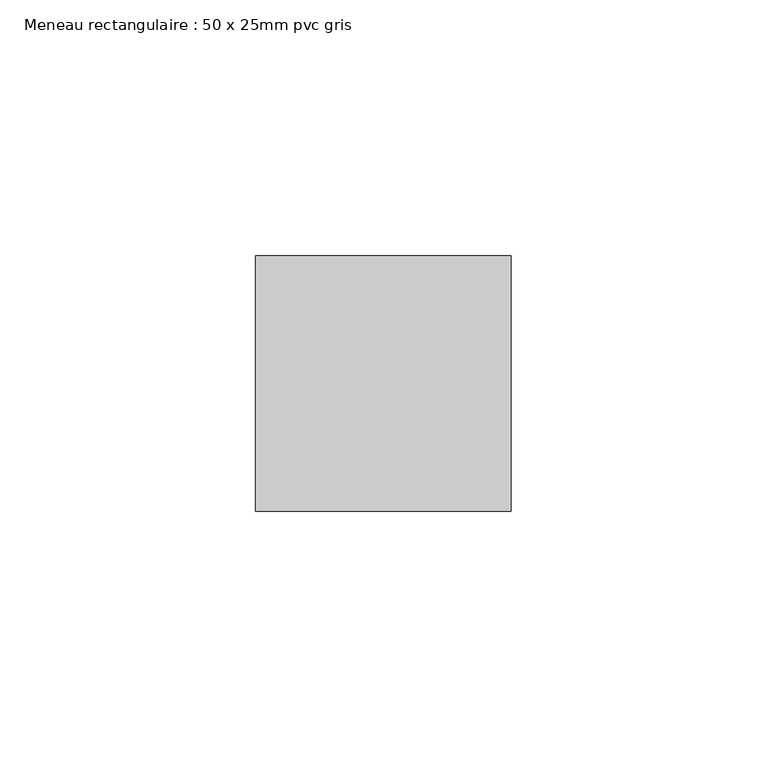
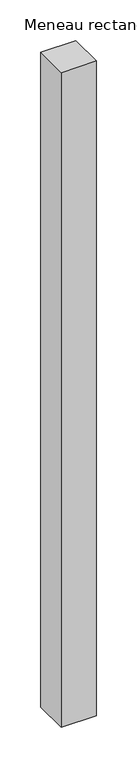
"""IFC4 building model written with IfcOpenShell, lengths in millimetres: member geometry, Meneau rectangulaire : 50 x 25mm pvc gris."""

from ifc_helpers import new_model, si_unit, frame, origin, place, context, project, spatial, polyline, outline, extrude, source, transform, mapped, element, save


def meneau_rectangulaire_50_x_25mm_pvc_gris_e13b4b0c(model_context):
    return source(origin(), model_context, "Body", "SweptSolid", [
        extrude(outline(polyline([(0.0, 0.0), (0.0, -50.0), (-50.0, -50.0), (-50.0, 0.0), (0.0, 0.0)])), frame((0.0, 0.0, -982.6918158), z_axis=(0.0, 0.0, 1.0), x_axis=(1.0, 0.0, 0.0)), (0.0, 0.0, 1.0), 982.6918158),
    ])


if __name__ == "__main__":
    model = new_model("IFC4")
    model_context = context("Model", 3, world=origin())
    ifc_project = project(units=[si_unit("LENGTHUNIT", "METRE", prefix="MILLI")], contexts=[model_context])
    site = spatial("IfcSite", under=ifc_project)
    building = spatial("IfcBuilding", under=site)
    placement = place(None, origin())
    meneau_rectangulaire_50_x_25mm_pvc_gris_shape = meneau_rectangulaire_50_x_25mm_pvc_gris_e13b4b0c(model_context)
    element("IfcMember", 1, ObjectType="Meneau rectangulaire : 50 x 25mm pvc gris", at=placement, inside=building, context=model_context, shape_type="MappedRepresentation", body=[
        mapped(meneau_rectangulaire_50_x_25mm_pvc_gris_shape, transform((0.0, 0.0, 0.0), x_axis=(1.0, 0.0, 0.0), y_axis=(0.0, 1.0, 0.0), z_axis=(0.0, 0.0, 1.0))),
    ])
    save(model, "model.ifc")
